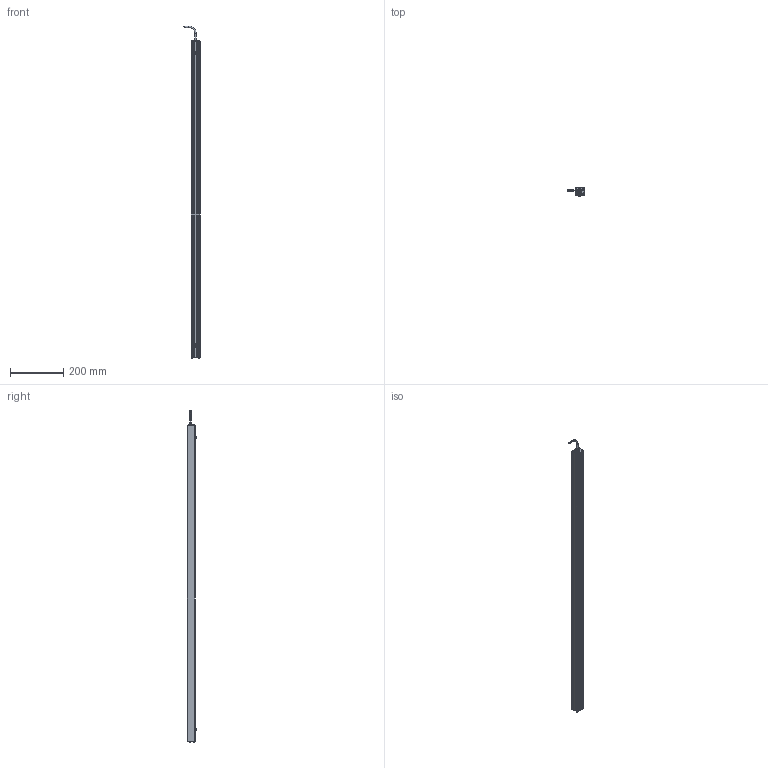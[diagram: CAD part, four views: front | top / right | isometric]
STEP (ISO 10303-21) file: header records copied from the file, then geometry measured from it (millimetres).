
FILE_DESCRIPTION (( 'STEP AP214' ), '1' );
FILE_NAME ('AL150XXXX_AL150270.stp', '2021-04-29T15:41:33', ( '' ), ( '' ), 'SwSTEP 2.0', 'SolidWorks 2018', '' );
FILE_SCHEMA (( 'AUTOMOTIVE_DESIGN' ));
Length unit declared in the file: inch
Products named in the file (12): 092408_TRUNCATED; Part2^AL150XXXX; 116-02-006; HN-M6_90592A016; 116-02-007; AL150XXXX_AL150270; 1157 (no strap); CHM6x8_91460A312; 093145_93701A253; 150-01-005-XXX_150-01-005-270; Part1^AL150XXXX; 150-03-006-XXXX_150-03-006-270
Assembly tree (18 placements, depth 2):
  Part2^AL150XXXX
  AL150XXXX_AL150270
    150-01-005-XXX_150-01-005-270
    116-02-006
    093145_93701A253  x8
    HN-M6_90592A016  x2
    CHM6x8_91460A312  x2
    150-03-006-XXXX_150-03-006-270
    116-02-007
    1157 (no strap)
    092408_TRUNCATED
  Part1^AL150XXXX
Bounding box: 60.68 x 33.84 x 1241.6 mm (x, y, z)
Volume: 368457.9 mm3; surface area: 390493.5 mm2
Topology: 26 solids, 26 shells, 1306 faces, 3436 edges, 2127 vertices
Faces by surface type: cylinder 805, cone 249, plane 153, torus 59, bspline 32, sphere 8
Entity records: 18285 total; most frequent: CARTESIAN_POINT 6069, ORIENTED_EDGE 2496, DIRECTION 2311, EDGE_CURVE 1248, AXIS2_PLACEMENT_3D 881, VERTEX_POINT 800, VECTOR 549, LINE 549
